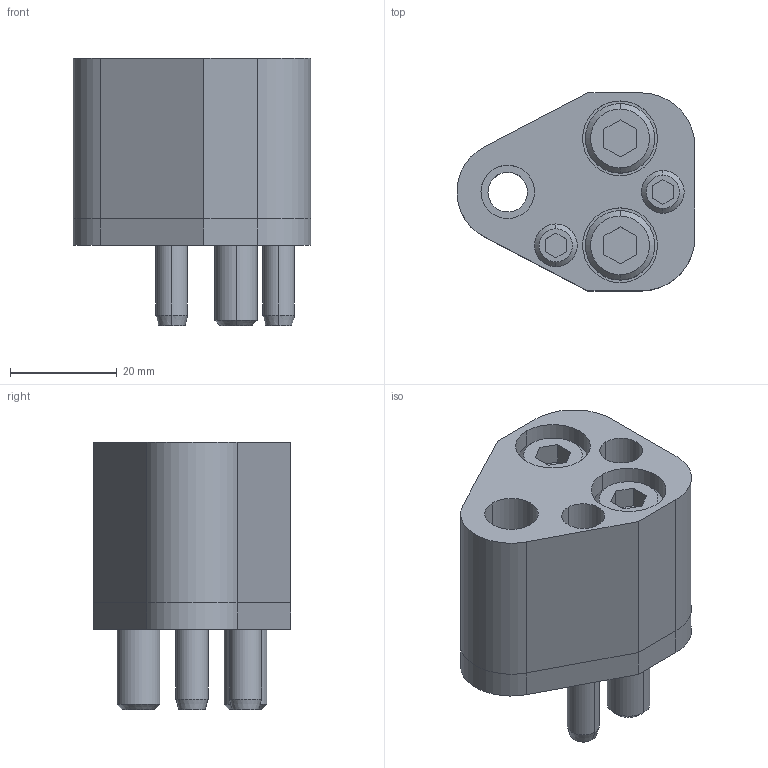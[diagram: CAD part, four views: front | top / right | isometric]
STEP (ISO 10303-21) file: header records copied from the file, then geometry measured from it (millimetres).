
FILE_DESCRIPTION(/* description */ (''),/* implementation_level */ '2;1');
FILE_NAME(/* name */ '3d_dp-ad10_02810_r00.stp',/* time_stamp */ '2011-01-10T14:15:59+09:00',/* author */ ('MISUMI'),/* organization */ (''),/* preprocessor_version */ 'ST-DEVELOPER v11',/* originating_system */ 'UGS - NX 5.0',/* authorisation */ '');
FILE_SCHEMA (('CONFIG_CONTROL_DESIGN'));
Length unit declared in the file: millimetre
Products named in the file (1): 3d_dp-ad10_02810_r00
Bounding box: 44.47 x 37 x 50 mm (x, y, z)
Volume: 40679.9 mm3; surface area: 19068.7 mm2
Topology: 8 solids, 8 shells, 155 faces, 346 edges, 222 vertices
Faces by surface type: plane 67, cylinder 62, cone 26
Entity records: 4480 total; most frequent: DIRECTION 804, CARTESIAN_POINT 778, ORIENTED_EDGE 692, EDGE_CURVE 346, AXIS2_PLACEMENT_3D 306, VERTEX_POINT 222, LINE 192, VECTOR 192
